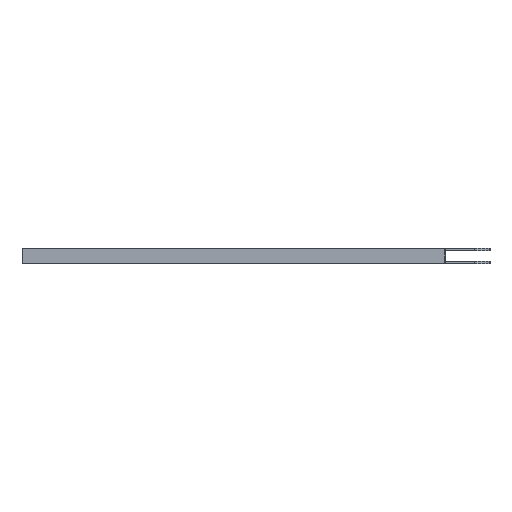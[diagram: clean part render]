
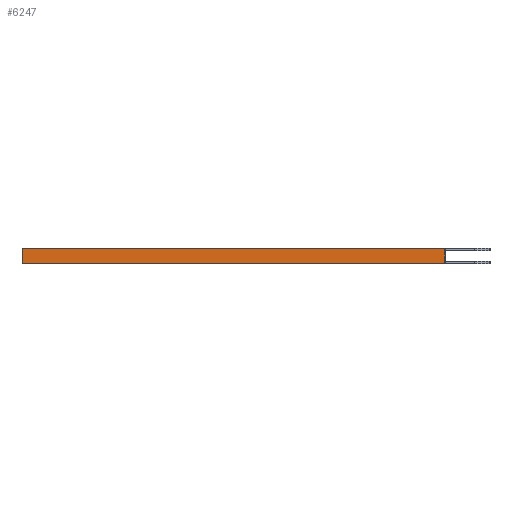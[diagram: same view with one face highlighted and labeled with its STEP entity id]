
A CAD part, left-side view. The second image highlights one B-rep face of the part: STEP entity #6247.
In plain terms, the highlighted planar face has unit normal (-1, 0, 0).
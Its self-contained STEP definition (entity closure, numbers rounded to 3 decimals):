
#537 = ORIENTED_EDGE ( 'NONE', *, *, #10759, .T. ) ;
#1392 = VERTEX_POINT ( 'NONE', #1678 ) ;
#1462 = ORIENTED_EDGE ( 'NONE', *, *, #4149, .F. ) ;
#1678 = CARTESIAN_POINT ( 'NONE',  ( 0., 0., -30. ) ) ;
#2020 = LINE ( 'NONE', #2970, #8978 ) ;
#2117 = DIRECTION ( 'NONE',  ( 0., -1., 0. ) ) ;
#2214 = EDGE_CURVE ( 'NONE', #1392, #6784, #2020, .T. ) ;
#2291 = FACE_OUTER_BOUND ( 'NONE', #8437, .T. ) ;
#2470 = VECTOR ( 'NONE', #10803, 1000. ) ;
#2970 = CARTESIAN_POINT ( 'NONE',  ( 0., 0., -30. ) ) ;
#3491 = CARTESIAN_POINT ( 'NONE',  ( 0., 0., 30. ) ) ;
#3754 = VECTOR ( 'NONE', #4923, 1000. ) ;
#4149 = EDGE_CURVE ( 'NONE', #8815, #6784, #9975, .T. ) ;
#4249 = DIRECTION ( 'NONE',  ( 0., 0., 1. ) ) ;
#4617 = ORIENTED_EDGE ( 'NONE', *, *, #11648, .F. ) ;
#4923 = DIRECTION ( 'NONE',  ( 0., 0., 1. ) ) ;
#5051 = CARTESIAN_POINT ( 'NONE',  ( 0., 1600., -30. ) ) ;
#5761 = CARTESIAN_POINT ( 'NONE',  ( 0., 1600., -30. ) ) ;
#6133 = DIRECTION ( 'NONE',  ( -1., 0., 0. ) ) ;
#6247 = ADVANCED_FACE ( 'NONE', ( #2291 ), #11337, .T. ) ;
#6784 = VERTEX_POINT ( 'NONE', #8036 ) ;
#6935 = CARTESIAN_POINT ( 'NONE',  ( 0., 1600., 30. ) ) ;
#8036 = CARTESIAN_POINT ( 'NONE',  ( 0., 0., 30. ) ) ;
#8269 = VECTOR ( 'NONE', #2117, 1000. ) ;
#8307 = LINE ( 'NONE', #5761, #3754 ) ;
#8437 = EDGE_LOOP ( 'NONE', ( #1462, #4617, #537, #9795 ) ) ;
#8454 = CARTESIAN_POINT ( 'NONE',  ( 0., 0., -30. ) ) ;
#8815 = VERTEX_POINT ( 'NONE', #6935 ) ;
#8821 = VERTEX_POINT ( 'NONE', #5051 ) ;
#8978 = VECTOR ( 'NONE', #10114, 1000. ) ;
#9519 = LINE ( 'NONE', #8454, #8269 ) ;
#9795 = ORIENTED_EDGE ( 'NONE', *, *, #2214, .T. ) ;
#9975 = LINE ( 'NONE', #3491, #2470 ) ;
#10114 = DIRECTION ( 'NONE',  ( 0., 0., 1. ) ) ;
#10442 = CARTESIAN_POINT ( 'NONE',  ( 0., 0., -30. ) ) ;
#10759 = EDGE_CURVE ( 'NONE', #8821, #1392, #9519, .T. ) ;
#10803 = DIRECTION ( 'NONE',  ( 0., -1., 0. ) ) ;
#10813 = AXIS2_PLACEMENT_3D ( 'NONE', #10442, #6133, #4249 ) ;
#11337 = PLANE ( 'NONE',  #10813 ) ;
#11648 = EDGE_CURVE ( 'NONE', #8821, #8815, #8307, .T. ) ;
